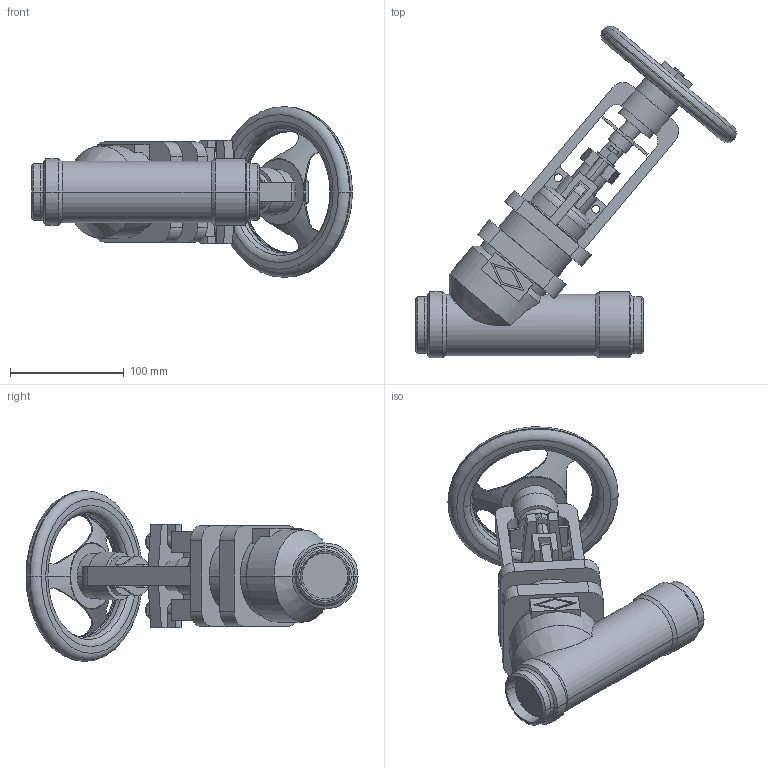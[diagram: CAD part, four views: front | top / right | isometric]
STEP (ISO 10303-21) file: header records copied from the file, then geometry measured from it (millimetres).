
FILE_DESCRIPTION(('OneSpaceDesigner STEP Export'),'2;1');
FILE_NAME('c000004350.stp','2010-05-10T10:56:55',(''),(''),'OneSpace Designer STEP processor for AP214 (Solid Model)','OneSpace Modeling 15.50B 03-Nov-2007 (C) CoCreate Software GmbH','');
FILE_SCHEMA(('AUTOMOTIVE_DESIGN { 1 0 10303 214 1 1 1 1 }'));
Length unit declared in the file: millimetre
Products named in the file (1): 1
Bounding box: 281.86 x 291.65 x 150 mm (x, y, z)
Volume: 1327621.4 mm3; surface area: 168022.7 mm2
Topology: 1 solids, 1 shells, 294 faces, 778 edges, 503 vertices
Faces by surface type: plane 136, cylinder 95, torus 36, cone 27
Entity records: 11658 total; most frequent: CARTESIAN_POINT 2420, ORIENTED_EDGE 1548, DIRECTION 1276, EDGE_CURVE 774, VERTEX_POINT 499, AXIS2_PLACEMENT_3D 433, VECTOR 410, LINE 410
